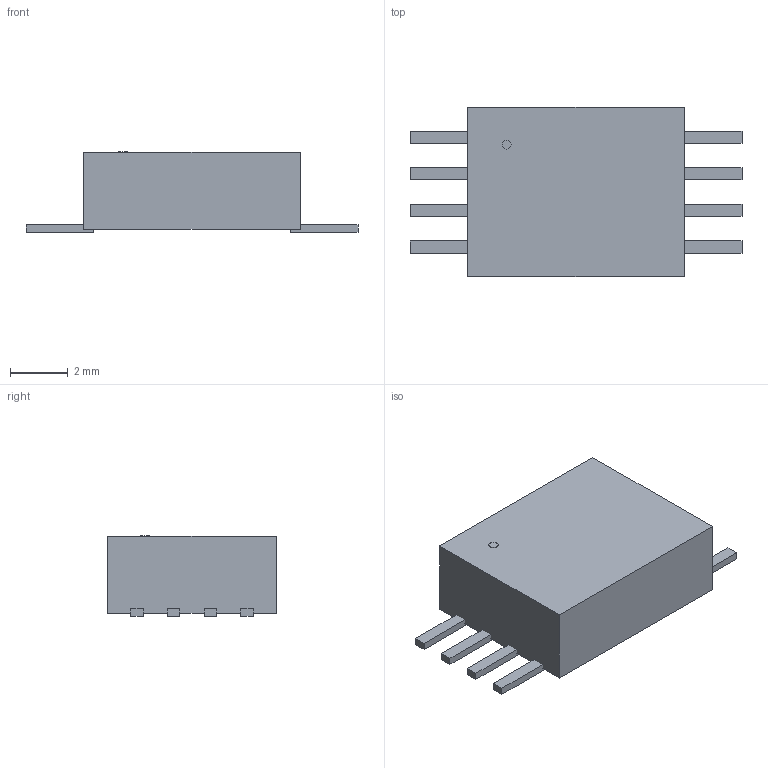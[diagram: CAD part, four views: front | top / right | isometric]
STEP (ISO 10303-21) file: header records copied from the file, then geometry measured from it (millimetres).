
FILE_DESCRIPTION(('FreeCAD Model'),'2;1');
FILE_NAME('Open CASCADE Shape Model','2026-09-21T21:53:17',('FreeCAD'),( 'FreeCAD'),'Open CASCADE STEP processor 7.8','FreeCAD','Unknown');
FILE_SCHEMA(('AUTOMOTIVE_DESIGN { 1 0 10303 214 1 1 1 1 }'));
Length unit declared in the file: millimetre
Products named in the file (1): Open CASCADE STEP translator 7.8 22
Bounding box: 11.5 x 5.85 x 2.79 mm (x, y, z)
Volume: 119.6 mm3; surface area: 186.8 mm2
Topology: 10 solids, 10 shells, 72 faces, 156 edges, 104 vertices
Faces by surface type: plane 72
Entity records: 1912 total; most frequent: CARTESIAN_POINT 333, ORIENTED_EDGE 312, DIRECTION 302, EDGE_CURVE 156, LINE 156, VECTOR 156, VERTEX_POINT 104, AXIS2_PLACEMENT_3D 73
